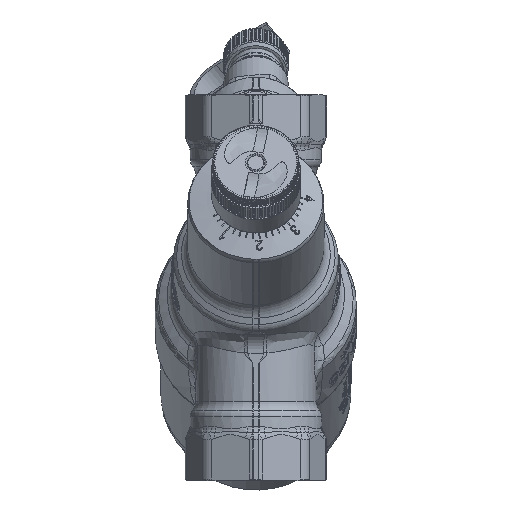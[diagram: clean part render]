
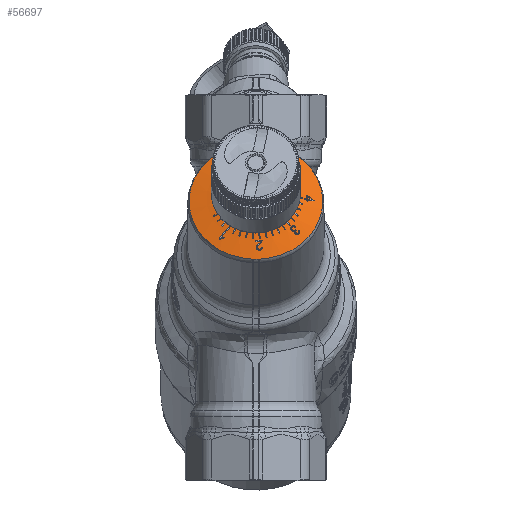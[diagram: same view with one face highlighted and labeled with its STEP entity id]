
A CAD part, front view. The second image highlights one B-rep face of the part: STEP entity #56697.
In plain terms, the highlighted conical face has half-angle 72 degrees and reference radius 10.537 mm.
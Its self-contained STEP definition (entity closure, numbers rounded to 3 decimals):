
#1516=CONICAL_SURFACE('',#60809,10.537,1.257);
#1904=CIRCLE('',#60807,5.888);
#1905=CIRCLE('',#60808,5.888);
#1906=CIRCLE('',#60810,12.42);
#1907=CIRCLE('',#60811,12.42);
#6305=FACE_OUTER_BOUND('',#9654,.T.);
#9654=EDGE_LOOP('',(#37836,#37837,#37838,#37839,#37840,#37841,#37842,#37843,
#37844,#37845,#37846,#37847,#37848));
#13170=B_SPLINE_CURVE_WITH_KNOTS('',3,(#80801,#80802,#80803,#80804),
 .UNSPECIFIED.,.F.,.F.,(4,4),(5.355,5.404),
 .UNSPECIFIED.);
#13171=B_SPLINE_CURVE_WITH_KNOTS('',3,(#80806,#80807,#80808,#80809,#80810,
#80811),.UNSPECIFIED.,.F.,.F.,(4,2,4),(-0.013,-0.007,
-0.002),.UNSPECIFIED.);
#13172=B_SPLINE_CURVE_WITH_KNOTS('',3,(#80815,#80816,#80817,#80818,#80819,
#80820),.UNSPECIFIED.,.F.,.F.,(4,2,4),(-0.039,-0.029,
0.),.UNSPECIFIED.);
#13173=B_SPLINE_CURVE_WITH_KNOTS('',3,(#80822,#80823,#80824,#80825,#80826,
#80827),.UNSPECIFIED.,.F.,.F.,(4,2,4),(5.28,5.404,
5.528),.UNSPECIFIED.);
#13174=B_SPLINE_CURVE_WITH_KNOTS('',3,(#80829,#80830,#80831,#80832,#80833,
#80834,#80835,#80836),.UNSPECIFIED.,.F.,.F.,(4,2,2,4),(-0.141,
-0.103,-0.063,-0.058),
 .UNSPECIFIED.);
#13175=B_SPLINE_CURVE_WITH_KNOTS('',3,(#80840,#80841,#80842,#80843,#80844,
#80845),.UNSPECIFIED.,.F.,.F.,(4,2,4),(-0.01,-0.006,
0.),.UNSPECIFIED.);
#13176=B_SPLINE_CURVE_WITH_KNOTS('',3,(#80846,#80847,#80848,#80849),
 .UNSPECIFIED.,.F.,.F.,(4,4),(5.404,5.454),
 .UNSPECIFIED.);
#15238=LINE('',#80799,#19016);
#19016=VECTOR('',#65801,10.537);
#22900=VERTEX_POINT('',#80792);
#22901=VERTEX_POINT('',#80794);
#22902=VERTEX_POINT('',#80798);
#22903=VERTEX_POINT('',#80800);
#22904=VERTEX_POINT('',#80805);
#22905=VERTEX_POINT('',#80812);
#22906=VERTEX_POINT('',#80814);
#22907=VERTEX_POINT('',#80821);
#22908=VERTEX_POINT('',#80828);
#22909=VERTEX_POINT('',#80837);
#22910=VERTEX_POINT('',#80839);
#28779=EDGE_CURVE('',#22900,#22901,#1904,.T.);
#28780=EDGE_CURVE('',#22901,#22900,#1905,.T.);
#28781=EDGE_CURVE('',#22900,#22902,#15238,.T.);
#28782=EDGE_CURVE('',#22903,#22902,#13170,.T.);
#28783=EDGE_CURVE('',#22904,#22903,#13171,.T.);
#28784=EDGE_CURVE('',#22905,#22904,#1906,.T.);
#28785=EDGE_CURVE('',#22906,#22905,#13172,.T.);
#28786=EDGE_CURVE('',#22907,#22906,#13173,.T.);
#28787=EDGE_CURVE('',#22908,#22907,#13174,.T.);
#28788=EDGE_CURVE('',#22909,#22908,#1907,.T.);
#28789=EDGE_CURVE('',#22910,#22909,#13175,.T.);
#28790=EDGE_CURVE('',#22902,#22910,#13176,.T.);
#37836=ORIENTED_EDGE('',*,*,#28780,.F.);
#37837=ORIENTED_EDGE('',*,*,#28779,.F.);
#37838=ORIENTED_EDGE('',*,*,#28781,.T.);
#37839=ORIENTED_EDGE('',*,*,#28782,.F.);
#37840=ORIENTED_EDGE('',*,*,#28783,.F.);
#37841=ORIENTED_EDGE('',*,*,#28784,.F.);
#37842=ORIENTED_EDGE('',*,*,#28785,.F.);
#37843=ORIENTED_EDGE('',*,*,#28786,.F.);
#37844=ORIENTED_EDGE('',*,*,#28787,.F.);
#37845=ORIENTED_EDGE('',*,*,#28788,.F.);
#37846=ORIENTED_EDGE('',*,*,#28789,.F.);
#37847=ORIENTED_EDGE('',*,*,#28790,.F.);
#37848=ORIENTED_EDGE('',*,*,#28781,.F.);
#56697=ADVANCED_FACE('',(#6305),#1516,.T.);
#60807=AXIS2_PLACEMENT_3D('',#80795,#65795,#65796);
#60808=AXIS2_PLACEMENT_3D('',#80796,#65797,#65798);
#60809=AXIS2_PLACEMENT_3D('',#80797,#65799,#65800);
#60810=AXIS2_PLACEMENT_3D('',#80813,#65802,#65803);
#60811=AXIS2_PLACEMENT_3D('',#80838,#65804,#65805);
#65795=DIRECTION('center_axis',(0.,-0.866,
0.5));
#65796=DIRECTION('ref_axis',(0.,-0.5,-0.866));
#65797=DIRECTION('center_axis',(0.,-0.866,
0.5));
#65798=DIRECTION('ref_axis',(0.,-0.5,-0.866));
#65799=DIRECTION('center_axis',(0.,0.866,-0.5));
#65800=DIRECTION('ref_axis',(0.,0.5,0.866));
#65801=DIRECTION('',(0.,-0.208,-0.978));
#65802=DIRECTION('center_axis',(0.,0.866,-0.5));
#65803=DIRECTION('ref_axis',(0.,0.5,0.866));
#65804=DIRECTION('center_axis',(0.,0.866,-0.5));
#65805=DIRECTION('ref_axis',(0.,0.5,0.866));
#80792=CARTESIAN_POINT('',(0.,-30.128,10.595));
#80794=CARTESIAN_POINT('',(0.,-24.24,20.794));
#80795=CARTESIAN_POINT('Origin',(0.,-27.184,
15.695));
#80796=CARTESIAN_POINT('Origin',(0.,-27.184,
15.695));
#80797=CARTESIAN_POINT('Origin',(0.,-25.876,14.94));
#80798=CARTESIAN_POINT('',(0.,-31.561,3.856));
#80799=CARTESIAN_POINT('',(0.,-31.145,5.815));
#80800=CARTESIAN_POINT('',(0.498,-31.559,3.852));
#80801=CARTESIAN_POINT('Ctrl Pts',(0.498,-31.559,
3.852));
#80802=CARTESIAN_POINT('Ctrl Pts',(0.33,-31.56,
3.854));
#80803=CARTESIAN_POINT('Ctrl Pts',(0.164,-31.561,
3.856));
#80804=CARTESIAN_POINT('Ctrl Pts',(0.,-31.561,
3.856));
#80805=CARTESIAN_POINT('',(0.592,-31.549,3.89));
#80806=CARTESIAN_POINT('Ctrl Pts',(0.592,-31.549,3.89));
#80807=CARTESIAN_POINT('Ctrl Pts',(0.572,-31.55,
3.889));
#80808=CARTESIAN_POINT('Ctrl Pts',(0.553,-31.551,
3.884));
#80809=CARTESIAN_POINT('Ctrl Pts',(0.522,-31.555,3.869));
#80810=CARTESIAN_POINT('Ctrl Pts',(0.509,-31.556,
3.861));
#80811=CARTESIAN_POINT('Ctrl Pts',(0.498,-31.559,
3.852));
#80812=CARTESIAN_POINT('',(1.629,-19.19,25.297));
#80813=CARTESIAN_POINT('Origin',(0.,-25.346,
14.634));
#80814=CARTESIAN_POINT('',(1.275,-19.092,25.403));
#80815=CARTESIAN_POINT('Ctrl Pts',(1.275,-19.092,25.403));
#80816=CARTESIAN_POINT('Ctrl Pts',(1.302,-19.106,25.389));
#80817=CARTESIAN_POINT('Ctrl Pts',(1.33,-19.119,25.376));
#80818=CARTESIAN_POINT('Ctrl Pts',(1.443,-19.165,25.329));
#80819=CARTESIAN_POINT('Ctrl Pts',(1.532,-19.183,25.308));
#80820=CARTESIAN_POINT('Ctrl Pts',(1.629,-19.19,25.297));
#80821=CARTESIAN_POINT('',(-1.275,-19.092,25.403));
#80822=CARTESIAN_POINT('Ctrl Pts',(-1.275,-19.092,
25.403));
#80823=CARTESIAN_POINT('Ctrl Pts',(-0.84,-19.11,
25.404));
#80824=CARTESIAN_POINT('Ctrl Pts',(-0.413,-19.12,
25.405));
#80825=CARTESIAN_POINT('Ctrl Pts',(0.413,-19.12,
25.405));
#80826=CARTESIAN_POINT('Ctrl Pts',(0.84,-19.11,
25.404));
#80827=CARTESIAN_POINT('Ctrl Pts',(1.275,-19.092,25.403));
#80828=CARTESIAN_POINT('',(-1.629,-19.19,25.297));
#80829=CARTESIAN_POINT('Ctrl Pts',(-1.629,-19.19,
25.297));
#80830=CARTESIAN_POINT('Ctrl Pts',(-1.57,-19.186,
25.304));
#80831=CARTESIAN_POINT('Ctrl Pts',(-1.513,-19.177,25.314));
#80832=CARTESIAN_POINT('Ctrl Pts',(-1.399,-19.148,
25.347));
#80833=CARTESIAN_POINT('Ctrl Pts',(-1.345,-19.127,
25.368));
#80834=CARTESIAN_POINT('Ctrl Pts',(-1.288,-19.098,
25.396));
#80835=CARTESIAN_POINT('Ctrl Pts',(-1.282,-19.095,25.399));
#80836=CARTESIAN_POINT('Ctrl Pts',(-1.275,-19.092,
25.403));
#80837=CARTESIAN_POINT('',(-0.592,-31.549,3.89));
#80838=CARTESIAN_POINT('Origin',(0.,-25.346,
14.634));
#80839=CARTESIAN_POINT('',(-0.498,-31.559,3.852));
#80840=CARTESIAN_POINT('Ctrl Pts',(-0.498,-31.559,
3.852));
#80841=CARTESIAN_POINT('Ctrl Pts',(-0.509,-31.556,
3.861));
#80842=CARTESIAN_POINT('Ctrl Pts',(-0.522,-31.554,
3.87));
#80843=CARTESIAN_POINT('Ctrl Pts',(-0.553,-31.551,
3.884));
#80844=CARTESIAN_POINT('Ctrl Pts',(-0.572,-31.55,
3.889));
#80845=CARTESIAN_POINT('Ctrl Pts',(-0.592,-31.549,
3.89));
#80846=CARTESIAN_POINT('Ctrl Pts',(0.,-31.561,
3.856));
#80847=CARTESIAN_POINT('Ctrl Pts',(-0.164,-31.561,
3.856));
#80848=CARTESIAN_POINT('Ctrl Pts',(-0.33,-31.56,
3.854));
#80849=CARTESIAN_POINT('Ctrl Pts',(-0.498,-31.559,
3.852));
